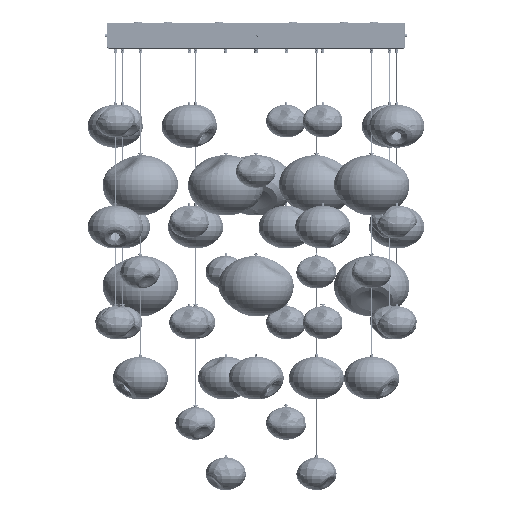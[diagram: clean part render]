
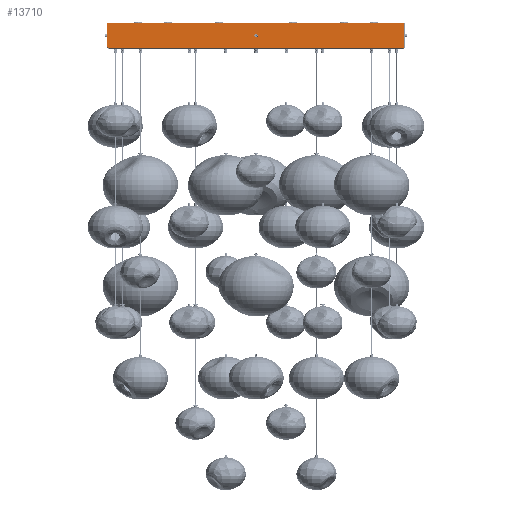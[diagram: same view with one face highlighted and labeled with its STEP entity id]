
A CAD part, front view. The second image highlights one B-rep face of the part: STEP entity #13710.
In plain terms, the highlighted planar face has unit normal (0, -1, 0) as drawn and (-1, 0, 0) by its records, which use the part's own axes.
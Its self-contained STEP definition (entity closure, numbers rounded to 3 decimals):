
#13201=FACE_BOUND('',#19841,.T.);
#13710=ADVANCED_FACE('',(#16743,#13201),#62202,.T.);
#16743=FACE_OUTER_BOUND('',#19840,.T.);
#19840=EDGE_LOOP('',(#23714,#23715,#23716,#23717,#23718,#23719));
#19841=EDGE_LOOP('',(#23720));
#23714=ORIENTED_EDGE('',*,*,#39797,.F.);
#23715=ORIENTED_EDGE('',*,*,#39798,.F.);
#23716=ORIENTED_EDGE('',*,*,#39799,.F.);
#23717=ORIENTED_EDGE('',*,*,#39816,.F.);
#23718=ORIENTED_EDGE('',*,*,#39794,.F.);
#23719=ORIENTED_EDGE('',*,*,#39790,.F.);
#23720=ORIENTED_EDGE('',*,*,#39956,.F.);
#39790=EDGE_CURVE('',#56054,#56055,#52968,.T.);
#39794=EDGE_CURVE('',#56055,#56058,#47810,.T.);
#39797=EDGE_CURVE('',#56060,#56054,#47813,.T.);
#39798=EDGE_CURVE('',#56061,#56060,#47814,.T.);
#39799=EDGE_CURVE('',#56062,#56061,#47815,.T.);
#39816=EDGE_CURVE('',#56058,#56062,#52975,.T.);
#39956=EDGE_CURVE('',#56063,#56063,#53026,.T.);
#47810=B_SPLINE_CURVE_WITH_KNOTS('',1,(#76787,#76788),.UNSPECIFIED.,.F.,
 .F.,(2,2),(0.,46.),.UNSPECIFIED.);
#47813=B_SPLINE_CURVE_WITH_KNOTS('',1,(#76793,#76794),.UNSPECIFIED.,.F.,
 .F.,(2,2),(-586.5,0.),.UNSPECIFIED.);
#47814=B_SPLINE_CURVE_WITH_KNOTS('',1,(#76795,#76796),.UNSPECIFIED.,.F.,
 .F.,(2,2),(-49.,0.),.UNSPECIFIED.);
#47815=B_SPLINE_CURVE_WITH_KNOTS('',1,(#76797,#76798),.UNSPECIFIED.,.F.,
 .F.,(2,2),(-586.5,0.),.UNSPECIFIED.);
#52968=(
BOUNDED_CURVE()
B_SPLINE_CURVE(2,(#76777,#76778,#76779),.UNSPECIFIED.,.F.,.F.)
B_SPLINE_CURVE_WITH_KNOTS((3,3),(0.,2.356),.UNSPECIFIED.)
CURVE()
GEOMETRIC_REPRESENTATION_ITEM()
RATIONAL_B_SPLINE_CURVE((1.,0.707,1.))
REPRESENTATION_ITEM('')
);
#52975=(
BOUNDED_CURVE()
B_SPLINE_CURVE(2,(#76836,#76837,#76838),.UNSPECIFIED.,.F.,.F.)
B_SPLINE_CURVE_WITH_KNOTS((3,3),(0.,2.356),.UNSPECIFIED.)
CURVE()
GEOMETRIC_REPRESENTATION_ITEM()
RATIONAL_B_SPLINE_CURVE((1.,0.707,1.))
REPRESENTATION_ITEM('')
);
#53026=(
BOUNDED_CURVE()
B_SPLINE_CURVE(2,(#77179,#77180,#77181,#77182,#77183,#77184,#77185,#77186,
#77187),.UNSPECIFIED.,.T.,.F.)
B_SPLINE_CURVE_WITH_KNOTS((3,2,2,2,3),(0.,3.927,7.854,
11.781,15.708),.UNSPECIFIED.)
CURVE()
GEOMETRIC_REPRESENTATION_ITEM()
RATIONAL_B_SPLINE_CURVE((1.,0.707,1.,0.707,1.,0.707,
1.,0.707,1.))
REPRESENTATION_ITEM('')
);
#56054=VERTEX_POINT('',#76532);
#56055=VERTEX_POINT('',#76533);
#56058=VERTEX_POINT('',#76536);
#56060=VERTEX_POINT('',#76538);
#56061=VERTEX_POINT('',#76539);
#56062=VERTEX_POINT('',#76540);
#56063=VERTEX_POINT('',#76541);
#62202=PLANE('',#69034);
#69034=AXIS2_PLACEMENT_3D('',#76269,#71740,$);
#71740=DIRECTION('',(-1.,0.,0.));
#76269=CARTESIAN_POINT('',(-295.,-28.52,351.92));
#76532=CARTESIAN_POINT('',(-295.,-23.5,-293.5));
#76533=CARTESIAN_POINT('',(-295.,-22.,-295.));
#76536=CARTESIAN_POINT('',(-295.,24.,-295.));
#76538=CARTESIAN_POINT('',(-295.,-23.5,293.));
#76539=CARTESIAN_POINT('',(-295.,25.5,293.));
#76540=CARTESIAN_POINT('',(-295.,25.5,-293.5));
#76541=CARTESIAN_POINT('',(-295.,0.5,2.5));
#76777=CARTESIAN_POINT('',(-295.,-23.5,-293.5));
#76778=CARTESIAN_POINT('',(-295.,-23.5,-295.));
#76779=CARTESIAN_POINT('',(-295.,-22.,-295.));
#76787=CARTESIAN_POINT('',(-295.,-22.,-295.));
#76788=CARTESIAN_POINT('',(-295.,24.,-295.));
#76793=CARTESIAN_POINT('',(-295.,-23.5,293.));
#76794=CARTESIAN_POINT('',(-295.,-23.5,-293.5));
#76795=CARTESIAN_POINT('',(-295.,25.5,293.));
#76796=CARTESIAN_POINT('',(-295.,-23.5,293.));
#76797=CARTESIAN_POINT('',(-295.,25.5,-293.5));
#76798=CARTESIAN_POINT('',(-295.,25.5,293.));
#76836=CARTESIAN_POINT('',(-295.,24.,-295.));
#76837=CARTESIAN_POINT('',(-295.,25.5,-295.));
#76838=CARTESIAN_POINT('',(-295.,25.5,-293.5));
#77179=CARTESIAN_POINT('',(-295.,0.5,2.5));
#77180=CARTESIAN_POINT('',(-295.,3.,2.5));
#77181=CARTESIAN_POINT('',(-295.,3.,0.));
#77182=CARTESIAN_POINT('',(-295.,3.,-2.5));
#77183=CARTESIAN_POINT('',(-295.,0.5,-2.5));
#77184=CARTESIAN_POINT('',(-295.,-2.,-2.5));
#77185=CARTESIAN_POINT('',(-295.,-2.,0.));
#77186=CARTESIAN_POINT('',(-295.,-2.,2.5));
#77187=CARTESIAN_POINT('',(-295.,0.5,2.5));
